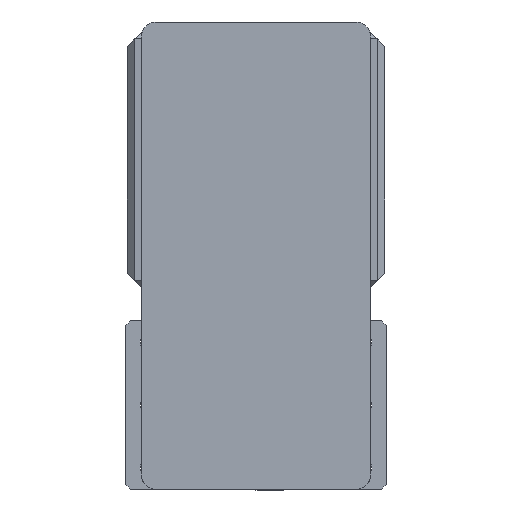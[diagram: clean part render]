
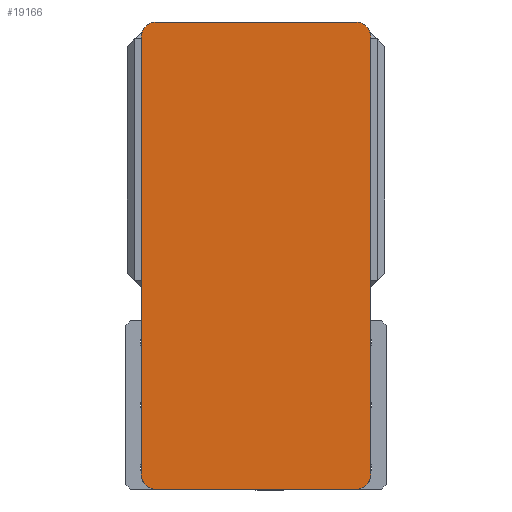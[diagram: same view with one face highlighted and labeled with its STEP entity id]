
A CAD part, left-side view. The second image highlights one B-rep face of the part: STEP entity #19166.
In plain terms, the highlighted planar face has unit normal (-1, 0, 0) as drawn and (0, 0, 1) by its records, which use the part's own axes.
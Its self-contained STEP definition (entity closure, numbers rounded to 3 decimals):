
#446 = ORIENTED_EDGE ( 'NONE', *, *, #22356, .T. ) ;
#676 = DIRECTION ( 'NONE',  ( 1., 0., 0. ) ) ;
#718 = EDGE_CURVE ( 'NONE', #7146, #10037, #16693, .T. ) ;
#1079 = ORIENTED_EDGE ( 'NONE', *, *, #5890, .T. ) ;
#1087 = DIRECTION ( 'NONE',  ( -1., 0., 0. ) ) ;
#1437 = ORIENTED_EDGE ( 'NONE', *, *, #14156, .T. ) ;
#1774 = AXIS2_PLACEMENT_3D ( 'NONE', #21848, #11222, #676 ) ;
#1824 = CARTESIAN_POINT ( 'NONE',  ( 0., 0., 105. ) ) ;
#1900 = DIRECTION ( 'NONE',  ( 0., 0., 1. ) ) ;
#2933 = ORIENTED_EDGE ( 'NONE', *, *, #20555, .T. ) ;
#3483 = CARTESIAN_POINT ( 'NONE',  ( -75., -152.5, 105. ) ) ;
#3513 = EDGE_CURVE ( 'NONE', #19410, #15725, #22381, .T. ) ;
#4348 = ORIENTED_EDGE ( 'NONE', *, *, #7383, .T. ) ;
#4696 = VECTOR ( 'NONE', #14688, 1000. ) ;
#5086 = VERTEX_POINT ( 'NONE', #12120 ) ;
#5188 = DIRECTION ( 'NONE',  ( 1., 0., 0. ) ) ;
#5287 = CARTESIAN_POINT ( 'NONE',  ( 65., -142.5, 105. ) ) ;
#5890 = EDGE_CURVE ( 'NONE', #17893, #18541, #9285, .T. ) ;
#6868 = CARTESIAN_POINT ( 'NONE',  ( -65., -142.5, 105. ) ) ;
#7064 = DIRECTION ( 'NONE',  ( 1., 0., 0. ) ) ;
#7146 = VERTEX_POINT ( 'NONE', #20278 ) ;
#7159 = PLANE ( 'NONE',  #13653 ) ;
#7383 = EDGE_CURVE ( 'NONE', #15725, #12464, #19760, .T. ) ;
#7598 = CARTESIAN_POINT ( 'NONE',  ( 75., 152.5, 105. ) ) ;
#7612 = CARTESIAN_POINT ( 'NONE',  ( -65., 152.5, 105. ) ) ;
#7807 = CARTESIAN_POINT ( 'NONE',  ( 65., -152.5, 105. ) ) ;
#7971 = CARTESIAN_POINT ( 'NONE',  ( 75., 142.5, 105. ) ) ;
#8449 = DIRECTION ( 'NONE',  ( 0., -1., 0. ) ) ;
#8614 = DIRECTION ( 'NONE',  ( 1., 0., 0. ) ) ;
#9285 = CIRCLE ( 'NONE', #20910, 10. ) ;
#9335 = DIRECTION ( 'NONE',  ( 0., 0., 1. ) ) ;
#10037 = VERTEX_POINT ( 'NONE', #7807 ) ;
#10205 = CIRCLE ( 'NONE', #22422, 10. ) ;
#11222 = DIRECTION ( 'NONE',  ( 0., 0., 1. ) ) ;
#11261 = CARTESIAN_POINT ( 'NONE',  ( -75., -142.5, 105. ) ) ;
#11766 = FACE_OUTER_BOUND ( 'NONE', #21136, .T. ) ;
#11993 = VECTOR ( 'NONE', #5188, 1000. ) ;
#12120 = CARTESIAN_POINT ( 'NONE',  ( 75., -142.5, 105. ) ) ;
#12464 = VERTEX_POINT ( 'NONE', #11261 ) ;
#12993 = VECTOR ( 'NONE', #1087, 1000. ) ;
#13653 = AXIS2_PLACEMENT_3D ( 'NONE', #1824, #1900, #14248 ) ;
#14156 = EDGE_CURVE ( 'NONE', #10037, #5086, #10205, .T. ) ;
#14207 = CARTESIAN_POINT ( 'NONE',  ( -75., 142.5, 105. ) ) ;
#14248 = DIRECTION ( 'NONE',  ( 1., 0., 0. ) ) ;
#14688 = DIRECTION ( 'NONE',  ( 0., 1., 0. ) ) ;
#15006 = AXIS2_PLACEMENT_3D ( 'NONE', #6868, #19204, #8614 ) ;
#15320 = EDGE_CURVE ( 'NONE', #5086, #17893, #19320, .T. ) ;
#15361 = ORIENTED_EDGE ( 'NONE', *, *, #15320, .T. ) ;
#15725 = VERTEX_POINT ( 'NONE', #14207 ) ;
#16146 = VECTOR ( 'NONE', #8449, 1000. ) ;
#16693 = LINE ( 'NONE', #3483, #11993 ) ;
#16884 = CARTESIAN_POINT ( 'NONE',  ( -75., 152.5, 105. ) ) ;
#17604 = DIRECTION ( 'NONE',  ( 0., 0., 1. ) ) ;
#17675 = LINE ( 'NONE', #16884, #12993 ) ;
#17893 = VERTEX_POINT ( 'NONE', #7971 ) ;
#18185 = ORIENTED_EDGE ( 'NONE', *, *, #718, .T. ) ;
#18541 = VERTEX_POINT ( 'NONE', #21943 ) ;
#19166 = ADVANCED_FACE ( 'NONE', ( #11766 ), #7159, .T. ) ;
#19204 = DIRECTION ( 'NONE',  ( 0., 0., 1. ) ) ;
#19320 = LINE ( 'NONE', #7598, #4696 ) ;
#19410 = VERTEX_POINT ( 'NONE', #7612 ) ;
#19760 = LINE ( 'NONE', #20822, #16146 ) ;
#19936 = CARTESIAN_POINT ( 'NONE',  ( 65., 142.5, 105. ) ) ;
#20278 = CARTESIAN_POINT ( 'NONE',  ( -65., -152.5, 105. ) ) ;
#20555 = EDGE_CURVE ( 'NONE', #12464, #7146, #20588, .T. ) ;
#20588 = CIRCLE ( 'NONE', #15006, 10. ) ;
#20822 = CARTESIAN_POINT ( 'NONE',  ( -75., 152.5, 105. ) ) ;
#20910 = AXIS2_PLACEMENT_3D ( 'NONE', #19936, #9335, #21727 ) ;
#21136 = EDGE_LOOP ( 'NONE', ( #18185, #1437, #15361, #1079, #446, #21902, #4348, #2933 ) ) ;
#21727 = DIRECTION ( 'NONE',  ( 1., 0., 0. ) ) ;
#21848 = CARTESIAN_POINT ( 'NONE',  ( -65., 142.5, 105. ) ) ;
#21902 = ORIENTED_EDGE ( 'NONE', *, *, #3513, .T. ) ;
#21943 = CARTESIAN_POINT ( 'NONE',  ( 65., 152.5, 105. ) ) ;
#22356 = EDGE_CURVE ( 'NONE', #18541, #19410, #17675, .T. ) ;
#22381 = CIRCLE ( 'NONE', #1774, 10. ) ;
#22422 = AXIS2_PLACEMENT_3D ( 'NONE', #5287, #17604, #7064 ) ;
